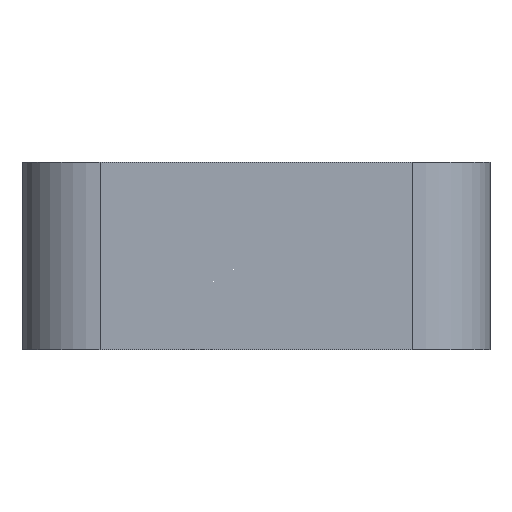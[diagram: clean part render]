
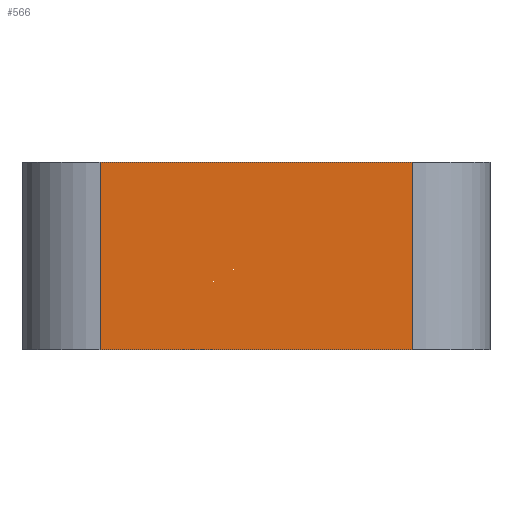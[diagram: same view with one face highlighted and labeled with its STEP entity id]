
A CAD part, front view. The second image highlights one B-rep face of the part: STEP entity #566.
In plain terms, the highlighted planar face has unit normal (0, -1, 0).
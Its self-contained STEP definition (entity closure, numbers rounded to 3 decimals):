
#44 = PLANE('',#45);
#45 = AXIS2_PLACEMENT_3D('',#46,#47,#48);
#46 = CARTESIAN_POINT('',(-15.,-125.,12.));
#47 = DIRECTION('',(0.,0.,1.));
#48 = DIRECTION('',(1.,0.,0.));
#72 = CYLINDRICAL_SURFACE('',#73,5.);
#73 = AXIS2_PLACEMENT_3D('',#74,#75,#76);
#74 = CARTESIAN_POINT('',(-10.,-120.,0.));
#75 = DIRECTION('',(0.,0.,1.));
#76 = DIRECTION('',(-1.,-0.,0.));
#100 = PLANE('',#101);
#101 = AXIS2_PLACEMENT_3D('',#102,#103,#104);
#102 = CARTESIAN_POINT('',(-15.,-125.,0.));
#103 = DIRECTION('',(0.,0.,1.));
#104 = DIRECTION('',(1.,0.,0.));
#143 = VERTEX_POINT('',#144);
#144 = CARTESIAN_POINT('',(-10.,-125.,12.));
#166 = EDGE_CURVE('',#143,#167,#169,.T.);
#167 = VERTEX_POINT('',#168);
#168 = CARTESIAN_POINT('',(10.,-125.,12.));
#169 = SURFACE_CURVE('',#170,(#174,#181),.PCURVE_S1.);
#170 = LINE('',#171,#172);
#171 = CARTESIAN_POINT('',(-15.,-125.,12.));
#172 = VECTOR('',#173,1.);
#173 = DIRECTION('',(1.,0.,0.));
#174 = PCURVE('',#44,#175);
#175 = DEFINITIONAL_REPRESENTATION('',(#176),#180);
#176 = LINE('',#177,#178);
#177 = CARTESIAN_POINT('',(0.,0.));
#178 = VECTOR('',#179,1.);
#179 = DIRECTION('',(1.,0.));
#180 = ( GEOMETRIC_REPRESENTATION_CONTEXT(2) 
PARAMETRIC_REPRESENTATION_CONTEXT() REPRESENTATION_CONTEXT('2D SPACE',''
  ) );
#181 = PCURVE('',#182,#187);
#182 = PLANE('',#183);
#183 = AXIS2_PLACEMENT_3D('',#184,#185,#186);
#184 = CARTESIAN_POINT('',(-15.,-125.,0.));
#185 = DIRECTION('',(0.,1.,0.));
#186 = DIRECTION('',(0.,0.,1.));
#187 = DEFINITIONAL_REPRESENTATION('',(#188),#192);
#188 = LINE('',#189,#190);
#189 = CARTESIAN_POINT('',(12.,0.));
#190 = VECTOR('',#191,1.);
#191 = DIRECTION('',(0.,1.));
#192 = ( GEOMETRIC_REPRESENTATION_CONTEXT(2) 
PARAMETRIC_REPRESENTATION_CONTEXT() REPRESENTATION_CONTEXT('2D SPACE',''
  ) );
#215 = CYLINDRICAL_SURFACE('',#216,5.);
#216 = AXIS2_PLACEMENT_3D('',#217,#218,#219);
#217 = CARTESIAN_POINT('',(10.,-120.,0.));
#218 = DIRECTION('',(0.,0.,1.));
#219 = DIRECTION('',(1.,0.,-0.));
#342 = VERTEX_POINT('',#343);
#343 = CARTESIAN_POINT('',(-10.,-125.,0.));
#365 = EDGE_CURVE('',#342,#143,#366,.T.);
#366 = SURFACE_CURVE('',#367,(#371,#378),.PCURVE_S1.);
#367 = LINE('',#368,#369);
#368 = CARTESIAN_POINT('',(-10.,-125.,0.));
#369 = VECTOR('',#370,1.);
#370 = DIRECTION('',(0.,0.,1.));
#371 = PCURVE('',#72,#372);
#372 = DEFINITIONAL_REPRESENTATION('',(#373),#377);
#373 = LINE('',#374,#375);
#374 = CARTESIAN_POINT('',(1.571,0.));
#375 = VECTOR('',#376,1.);
#376 = DIRECTION('',(0.,1.));
#377 = ( GEOMETRIC_REPRESENTATION_CONTEXT(2) 
PARAMETRIC_REPRESENTATION_CONTEXT() REPRESENTATION_CONTEXT('2D SPACE',''
  ) );
#378 = PCURVE('',#182,#379);
#379 = DEFINITIONAL_REPRESENTATION('',(#380),#384);
#380 = LINE('',#381,#382);
#381 = CARTESIAN_POINT('',(0.,5.));
#382 = VECTOR('',#383,1.);
#383 = DIRECTION('',(1.,0.));
#384 = ( GEOMETRIC_REPRESENTATION_CONTEXT(2) 
PARAMETRIC_REPRESENTATION_CONTEXT() REPRESENTATION_CONTEXT('2D SPACE',''
  ) );
#447 = EDGE_CURVE('',#342,#448,#450,.T.);
#448 = VERTEX_POINT('',#449);
#449 = CARTESIAN_POINT('',(10.,-125.,0.));
#450 = SURFACE_CURVE('',#451,(#455,#462),.PCURVE_S1.);
#451 = LINE('',#452,#453);
#452 = CARTESIAN_POINT('',(-15.,-125.,0.));
#453 = VECTOR('',#454,1.);
#454 = DIRECTION('',(1.,0.,0.));
#455 = PCURVE('',#100,#456);
#456 = DEFINITIONAL_REPRESENTATION('',(#457),#461);
#457 = LINE('',#458,#459);
#458 = CARTESIAN_POINT('',(0.,0.));
#459 = VECTOR('',#460,1.);
#460 = DIRECTION('',(1.,0.));
#461 = ( GEOMETRIC_REPRESENTATION_CONTEXT(2) 
PARAMETRIC_REPRESENTATION_CONTEXT() REPRESENTATION_CONTEXT('2D SPACE',''
  ) );
#462 = PCURVE('',#182,#463);
#463 = DEFINITIONAL_REPRESENTATION('',(#464),#468);
#464 = LINE('',#465,#466);
#465 = CARTESIAN_POINT('',(0.,0.));
#466 = VECTOR('',#467,1.);
#467 = DIRECTION('',(0.,1.));
#468 = ( GEOMETRIC_REPRESENTATION_CONTEXT(2) 
PARAMETRIC_REPRESENTATION_CONTEXT() REPRESENTATION_CONTEXT('2D SPACE',''
  ) );
#566 = ADVANCED_FACE('',(#567),#182,.F.);
#567 = FACE_BOUND('',#568,.F.);
#568 = EDGE_LOOP('',(#569,#570,#571,#572));
#569 = ORIENTED_EDGE('',*,*,#447,.F.);
#570 = ORIENTED_EDGE('',*,*,#365,.T.);
#571 = ORIENTED_EDGE('',*,*,#166,.T.);
#572 = ORIENTED_EDGE('',*,*,#573,.F.);
#573 = EDGE_CURVE('',#448,#167,#574,.T.);
#574 = SURFACE_CURVE('',#575,(#579,#586),.PCURVE_S1.);
#575 = LINE('',#576,#577);
#576 = CARTESIAN_POINT('',(10.,-125.,0.));
#577 = VECTOR('',#578,1.);
#578 = DIRECTION('',(0.,0.,1.));
#579 = PCURVE('',#182,#580);
#580 = DEFINITIONAL_REPRESENTATION('',(#581),#585);
#581 = LINE('',#582,#583);
#582 = CARTESIAN_POINT('',(0.,25.));
#583 = VECTOR('',#584,1.);
#584 = DIRECTION('',(1.,0.));
#585 = ( GEOMETRIC_REPRESENTATION_CONTEXT(2) 
PARAMETRIC_REPRESENTATION_CONTEXT() REPRESENTATION_CONTEXT('2D SPACE',''
  ) );
#586 = PCURVE('',#215,#587);
#587 = DEFINITIONAL_REPRESENTATION('',(#588),#592);
#588 = LINE('',#589,#590);
#589 = CARTESIAN_POINT('',(-1.571,0.));
#590 = VECTOR('',#591,1.);
#591 = DIRECTION('',(-0.,1.));
#592 = ( GEOMETRIC_REPRESENTATION_CONTEXT(2) 
PARAMETRIC_REPRESENTATION_CONTEXT() REPRESENTATION_CONTEXT('2D SPACE',''
  ) );
